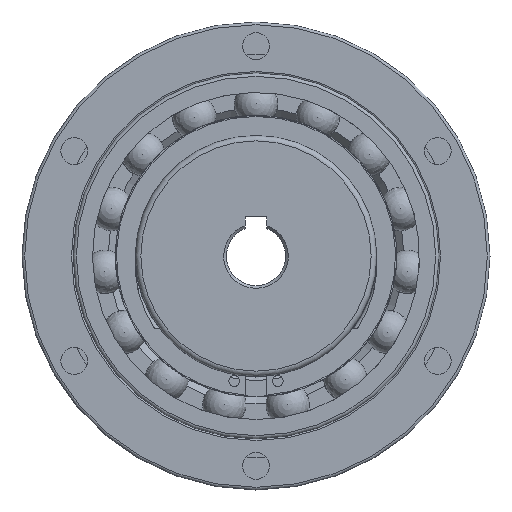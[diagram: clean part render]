
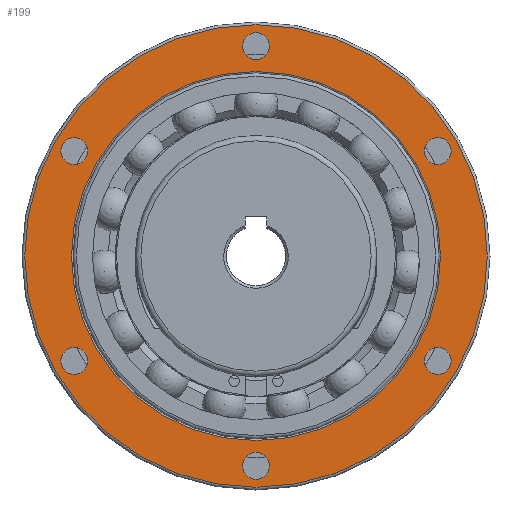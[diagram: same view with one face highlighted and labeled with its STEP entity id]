
A CAD part, left-side view. The second image highlights one B-rep face of the part: STEP entity #199.
In plain terms, the highlighted planar face has unit normal (-1, 0, 0).
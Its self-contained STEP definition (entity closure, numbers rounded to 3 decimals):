
#199 = ADVANCED_FACE( '', ( #549, #550, #551, #552, #553, #554, #555, #556 ), #557, .F. );
#549 = FACE_OUTER_BOUND( '', #1147, .T. );
#550 = FACE_BOUND( '', #1148, .T. );
#551 = FACE_BOUND( '', #1149, .T. );
#552 = FACE_BOUND( '', #1150, .T. );
#553 = FACE_BOUND( '', #1151, .T. );
#554 = FACE_BOUND( '', #1152, .T. );
#555 = FACE_BOUND( '', #1153, .T. );
#556 = FACE_BOUND( '', #1154, .T. );
#557 = PLANE( '', #1155 );
#1147 = EDGE_LOOP( '', ( #1767 ) );
#1148 = EDGE_LOOP( '', ( #1768 ) );
#1149 = EDGE_LOOP( '', ( #1769 ) );
#1150 = EDGE_LOOP( '', ( #1770 ) );
#1151 = EDGE_LOOP( '', ( #1771 ) );
#1152 = EDGE_LOOP( '', ( #1772 ) );
#1153 = EDGE_LOOP( '', ( #1773 ) );
#1154 = EDGE_LOOP( '', ( #1774 ) );
#1155 = AXIS2_PLACEMENT_3D( '', #1775, #1776, #1777 );
#1767 = ORIENTED_EDGE( '', *, *, #3203, .T. );
#1768 = ORIENTED_EDGE( '', *, *, #3204, .F. );
#1769 = ORIENTED_EDGE( '', *, *, #3205, .F. );
#1770 = ORIENTED_EDGE( '', *, *, #3206, .F. );
#1771 = ORIENTED_EDGE( '', *, *, #3207, .F. );
#1772 = ORIENTED_EDGE( '', *, *, #3208, .F. );
#1773 = ORIENTED_EDGE( '', *, *, #3209, .F. );
#1774 = ORIENTED_EDGE( '', *, *, #3210, .F. );
#1775 = CARTESIAN_POINT( '', ( 9.45, 0., 43. ) );
#1776 = DIRECTION( '', ( 1., 0., 0. ) );
#1777 = DIRECTION( '', ( 0., 1., 0. ) );
#3203 = EDGE_CURVE( '', #3791, #3791, #3792, .T. );
#3204 = EDGE_CURVE( '', #3793, #3793, #3794, .T. );
#3205 = EDGE_CURVE( '', #3795, #3795, #3796, .T. );
#3206 = EDGE_CURVE( '', #3797, #3797, #3798, .T. );
#3207 = EDGE_CURVE( '', #3799, #3799, #3800, .T. );
#3208 = EDGE_CURVE( '', #3801, #3801, #3802, .T. );
#3209 = EDGE_CURVE( '', #3803, #3803, #3804, .T. );
#3210 = EDGE_CURVE( '', #3805, #3805, #3806, .T. );
#3791 = VERTEX_POINT( '', #4736 );
#3792 = CIRCLE( '', #4737, 43. );
#3793 = VERTEX_POINT( '', #4738 );
#3794 = CIRCLE( '', #4739, 2.5 );
#3795 = VERTEX_POINT( '', #4740 );
#3796 = CIRCLE( '', #4741, 2.5 );
#3797 = VERTEX_POINT( '', #4742 );
#3798 = CIRCLE( '', #4743, 2.5 );
#3799 = VERTEX_POINT( '', #4744 );
#3800 = CIRCLE( '', #4745, 2.5 );
#3801 = VERTEX_POINT( '', #4746 );
#3802 = CIRCLE( '', #4747, 2.5 );
#3803 = VERTEX_POINT( '', #4748 );
#3804 = CIRCLE( '', #4749, 2.5 );
#3805 = VERTEX_POINT( '', #4750 );
#3806 = CIRCLE( '', #4751, 34.3 );
#4736 = CARTESIAN_POINT( '', ( 9.45, 0., 43. ) );
#4737 = AXIS2_PLACEMENT_3D( '', #7353, #7354, #7355 );
#4738 = CARTESIAN_POINT( '', ( 9.45, 0., 36.5 ) );
#4739 = AXIS2_PLACEMENT_3D( '', #7356, #7357, #7358 );
#4740 = CARTESIAN_POINT( '', ( 9.45, 33.775, 17. ) );
#4741 = AXIS2_PLACEMENT_3D( '', #7359, #7360, #7361 );
#4742 = CARTESIAN_POINT( '', ( 9.45, 33.775, -22. ) );
#4743 = AXIS2_PLACEMENT_3D( '', #7362, #7363, #7364 );
#4744 = CARTESIAN_POINT( '', ( 9.45, 0., -41.5 ) );
#4745 = AXIS2_PLACEMENT_3D( '', #7365, #7366, #7367 );
#4746 = CARTESIAN_POINT( '', ( 9.45, -33.775, -22. ) );
#4747 = AXIS2_PLACEMENT_3D( '', #7368, #7369, #7370 );
#4748 = CARTESIAN_POINT( '', ( 9.45, -33.775, 17. ) );
#4749 = AXIS2_PLACEMENT_3D( '', #7371, #7372, #7373 );
#4750 = CARTESIAN_POINT( '', ( 9.45, 0., 34.3 ) );
#4751 = AXIS2_PLACEMENT_3D( '', #7374, #7375, #7376 );
#7353 = CARTESIAN_POINT( '', ( 9.45, 0., 0. ) );
#7354 = DIRECTION( '', ( -1., 0., 0. ) );
#7355 = DIRECTION( '', ( 0., 0., 1. ) );
#7356 = CARTESIAN_POINT( '', ( 9.45, 0., 39. ) );
#7357 = DIRECTION( '', ( -1., 0., 0. ) );
#7358 = DIRECTION( '', ( 0., 0., -1. ) );
#7359 = CARTESIAN_POINT( '', ( 9.45, 33.775, 19.5 ) );
#7360 = DIRECTION( '', ( -1., 0., 0. ) );
#7361 = DIRECTION( '', ( 0., 0., -1. ) );
#7362 = CARTESIAN_POINT( '', ( 9.45, 33.775, -19.5 ) );
#7363 = DIRECTION( '', ( -1., 0., 0. ) );
#7364 = DIRECTION( '', ( 0., 0., -1. ) );
#7365 = CARTESIAN_POINT( '', ( 9.45, 0., -39. ) );
#7366 = DIRECTION( '', ( -1., 0., 0. ) );
#7367 = DIRECTION( '', ( 0., 0., -1. ) );
#7368 = CARTESIAN_POINT( '', ( 9.45, -33.775, -19.5 ) );
#7369 = DIRECTION( '', ( -1., 0., 0. ) );
#7370 = DIRECTION( '', ( 0., 0., -1. ) );
#7371 = CARTESIAN_POINT( '', ( 9.45, -33.775, 19.5 ) );
#7372 = DIRECTION( '', ( -1., 0., 0. ) );
#7373 = DIRECTION( '', ( 0., 0., -1. ) );
#7374 = CARTESIAN_POINT( '', ( 9.45, 0., 0. ) );
#7375 = DIRECTION( '', ( -1., 0., 0. ) );
#7376 = DIRECTION( '', ( 0., 0., 1. ) );
